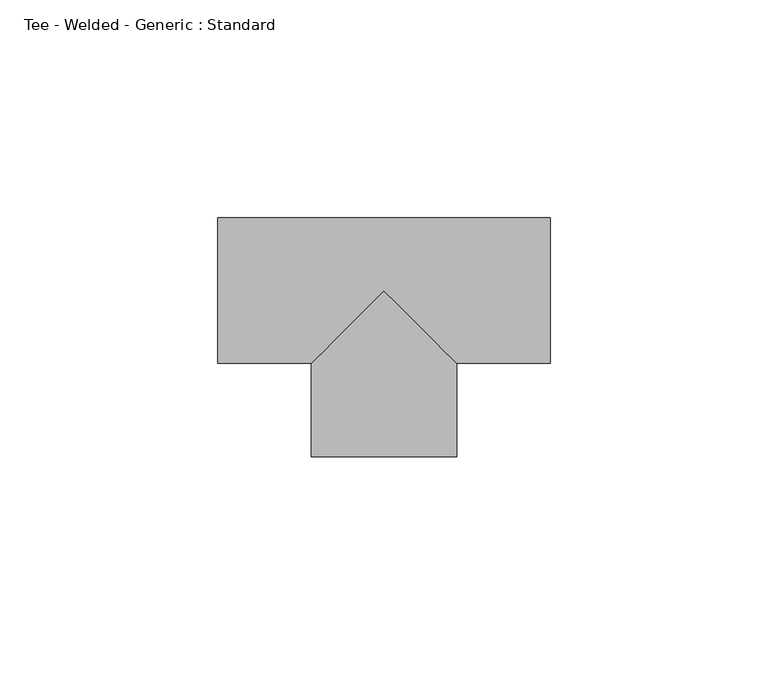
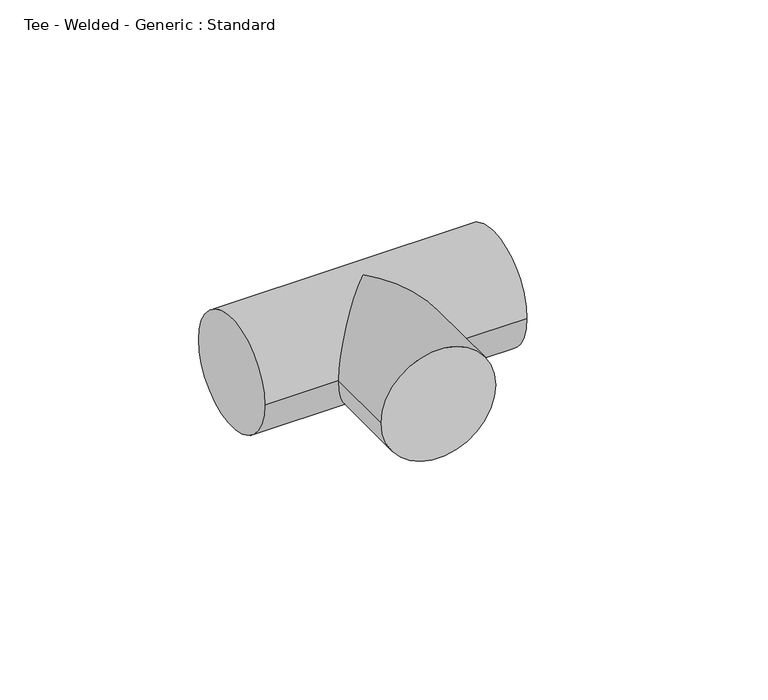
"""IFC4 building model written with IfcOpenShell, lengths in millimetres: pipe fitting geometry, Tee - Welded - Generic : Standard."""

from ifc_helpers import new_model, si_unit, frame, origin, place, context, project, spatial, circle_curve, ellipse_curve, source, transform, mapped, element, save
from ifc_brep_helpers import plane_surface, cylinder_surface, advanced_brep


def tee_welded_generic_standard_7d75bca3(model_context):
    return source(origin(), model_context, "Body", "AdvancedBrep", [
        advanced_brep(
        [(-38.1, -16.66875, 0.0), (-38.1, 16.66875, 0.0), (38.1, -16.66875, 0.0), (38.1, 16.66875, 0.0), (-16.6692985, -16.66875, 0.0), (0.0, 0.0, 16.66875), (16.6682015, -16.66875, 0.0), (0.0, 0.0, -16.66875), (-16.6700036, -38.0994515, 0.0), (16.6674964, -38.1005484, 0.0)],
        [
            (0, 1, circle_curve(frame((-38.1, 0.0, 0.0), z_axis=(-1.0, 0.0, 0.0), x_axis=(0.0, 1.0, 0.0)), 16.66875)),
            (1, 0, circle_curve(frame((-38.1, 0.0, 0.0), z_axis=(-1.0, 0.0, 0.0), x_axis=(0.0, 1.0, 0.0)), 16.66875)),
            (2, 3, circle_curve(frame((38.1, 0.0, 0.0), z_axis=(1.0, 0.0, 0.0), x_axis=(0.0, 1.0, 0.0)), 16.66875)),
            (3, 2, circle_curve(frame((38.1, 0.0, 0.0), z_axis=(1.0, 0.0, 0.0), x_axis=(0.0, 1.0, 0.0)), 16.66875)),
            (0, 4),
            (4, 5, ellipse_curve(frame((0.0, 0.0, 0.0), z_axis=(-0.7070951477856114, 0.7071184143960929, 0.0), x_axis=(-0.7071184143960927, -0.7070951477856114, 0.0)), 23.5735602, 16.66875)),
            (5, 6, ellipse_curve(frame((0.0, 0.0, 0.0), z_axis=(0.7071184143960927, 0.7070951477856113, 0.0), x_axis=(-0.7070951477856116, 0.7071184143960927, 0.0)), 23.5727845, 16.66875)),
            (6, 2),
            (3, 1),
            (6, 7, ellipse_curve(frame((0.0, 0.0, 0.0), z_axis=(0.7071184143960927, 0.7070951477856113, 0.0), x_axis=(-0.7070951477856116, 0.7071184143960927, 0.0)), 23.5727845, 16.66875)),
            (7, 4, ellipse_curve(frame((0.0, 0.0, 0.0), z_axis=(-0.7070951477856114, 0.7071184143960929, 0.0), x_axis=(-0.7071184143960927, -0.7070951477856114, 0.0)), 23.5735602, 16.66875)),
            (8, 9, circle_curve(frame((-0.0012536, -38.1, 0.0), z_axis=(-3.290395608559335e-05, -0.9999999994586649, 0.0), x_axis=(0.9999999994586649, -3.290395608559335e-05, 0.0)), 16.66875)),
            (9, 8, circle_curve(frame((-0.0012536, -38.1, 0.0), z_axis=(-3.290395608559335e-05, -0.9999999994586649, 0.0), x_axis=(0.9999999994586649, -3.290395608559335e-05, 0.0)), 16.66875)),
            (9, 6),
            (4, 8),
        ],
        [
            plane_surface(frame((-38.1, 0.0, 0.0), z_axis=(-1.0, 0.0, 0.0), x_axis=(0.0, 0.0, 1.0))),
            plane_surface(frame((38.1, 0.0, 0.0), z_axis=(1.0, 0.0, 0.0), x_axis=(0.0, 0.0, 1.0))),
            cylinder_surface(frame((-38.1, 0.0, 0.0), z_axis=(-1.0, 0.0, 0.0), x_axis=(0.0, 1.0, 0.0)), 16.66875),
            plane_surface(frame((-0.0012536, -38.1, 0.0), z_axis=(-3.290395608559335e-05, -0.9999999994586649, 0.0), x_axis=(0.0, 0.0, 1.0))),
            cylinder_surface(frame((0.0, 0.0, 0.0), z_axis=(3.290395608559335e-05, 0.9999999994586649, 0.0), x_axis=(0.9999999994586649, -3.290395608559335e-05, 0.0)), 16.66875),
        ],
        [
            (0, [[1, 2]]),
            (1, [[3, 4]]),
            (2, [[-1, 5, 6, 7, 8, -4, 9]]),
            (2, [[-2, -9, -3, -8, 10, 11, -5]]),
            (3, [[12, 13]]),
            (4, [[-13, 14, -7, -6, 15]]),
            (4, [[-12, -15, -11, -10, -14]]),
        ],
    ),
    ])


if __name__ == "__main__":
    model = new_model("IFC4")
    model_context = context("Model", 3, world=origin())
    ifc_project = project(units=[si_unit("LENGTHUNIT", "METRE", prefix="MILLI")], contexts=[model_context])
    site = spatial("IfcSite", under=ifc_project)
    building = spatial("IfcBuilding", under=site)
    placement = place(None, origin())
    tee_welded_generic_standard_shape = tee_welded_generic_standard_7d75bca3(model_context)
    element("IfcPipeFitting", 1, ObjectType="Tee - Welded - Generic : Standard", at=placement, inside=building, context=model_context, shape_type="MappedRepresentation", body=[
        mapped(tee_welded_generic_standard_shape, transform((0.0, 0.0, 0.0), x_axis=(1.0, 0.0, 0.0), y_axis=(0.0, 1.0, 0.0), z_axis=(0.0, 0.0, 1.0))),
    ])
    save(model, "model.ifc")
